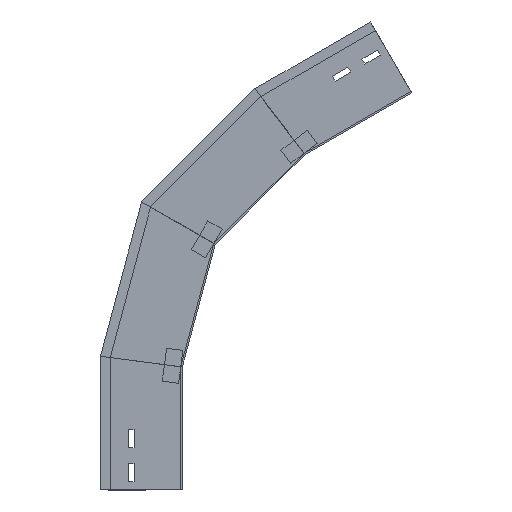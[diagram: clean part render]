
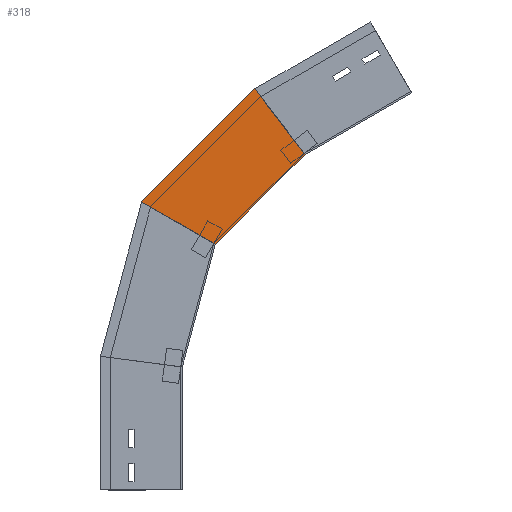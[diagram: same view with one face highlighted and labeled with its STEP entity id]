
A CAD part, left-side view. The second image highlights one B-rep face of the part: STEP entity #318.
In plain terms, the highlighted planar face has unit normal (-1, 0, 0) as drawn and (1, 0, 0) by its records, which use the part's own axes.
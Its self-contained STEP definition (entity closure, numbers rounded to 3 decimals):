
#18 = CARTESIAN_POINT ( 'NONE',  ( 0., 100.367, 161.797 ) ) ;
#114 = VERTEX_POINT ( 'NONE', #1142 ) ;
#116 = CARTESIAN_POINT ( 'NONE',  ( 0., 3.774, 135.915 ) ) ;
#133 = VERTEX_POINT ( 'NONE', #1580 ) ;
#212 = DIRECTION ( 'NONE',  ( 1., 0., 0. ) ) ;
#230 = CARTESIAN_POINT ( 'NONE',  ( 0., -40.117, 299.719 ) ) ;
#236 = EDGE_LOOP ( 'NONE', ( #1301, #1043, #260, #1416 ) ) ;
#254 = CARTESIAN_POINT ( 'NONE',  ( 0., -19.411, 147.444 ) ) ;
#260 = ORIENTED_EDGE ( 'NONE', *, *, #1498, .F. ) ;
#318 = ADVANCED_FACE ( 'NONE', ( #435 ), #577, .T. ) ;
#352 = DIRECTION ( 'NONE',  ( 0., 0., -1. ) ) ;
#366 = DIRECTION ( 'NONE',  ( 0., -0.866, -0.5 ) ) ;
#435 = FACE_OUTER_BOUND ( 'NONE', #236, .T. ) ;
#474 = VECTOR ( 'NONE', #1553, 1000. ) ;
#518 = CARTESIAN_POINT ( 'NONE',  ( 0., 3.774, 135.915 ) ) ;
#577 = PLANE ( 'NONE',  #1468 ) ;
#588 = EDGE_CURVE ( 'NONE', #1303, #1343, #1112, .T. ) ;
#590 = EDGE_CURVE ( 'NONE', #133, #114, #1128, .T. ) ;
#728 = VECTOR ( 'NONE', #1549, 1000. ) ;
#739 = EDGE_CURVE ( 'NONE', #133, #1303, #1036, .T. ) ;
#810 = VECTOR ( 'NONE', #1386, 1000. ) ;
#896 = CARTESIAN_POINT ( 'NONE',  ( 0., -78.128, 277.773 ) ) ;
#1036 = LINE ( 'NONE', #18, #474 ) ;
#1043 = ORIENTED_EDGE ( 'NONE', *, *, #588, .T. ) ;
#1112 = LINE ( 'NONE', #896, #1235 ) ;
#1128 = LINE ( 'NONE', #254, #810 ) ;
#1142 = CARTESIAN_POINT ( 'NONE',  ( 0., 0., 150. ) ) ;
#1235 = VECTOR ( 'NONE', #366, 1000. ) ;
#1301 = ORIENTED_EDGE ( 'NONE', *, *, #739, .T. ) ;
#1303 = VERTEX_POINT ( 'NONE', #1524 ) ;
#1343 = VERTEX_POINT ( 'NONE', #230 ) ;
#1386 = DIRECTION ( 'NONE',  ( 0., -0.991, -0.131 ) ) ;
#1416 = ORIENTED_EDGE ( 'NONE', *, *, #590, .F. ) ;
#1468 = AXIS2_PLACEMENT_3D ( 'NONE', #518, #212, #352 ) ;
#1498 = EDGE_CURVE ( 'NONE', #114, #1343, #1514, .T. ) ;
#1514 = LINE ( 'NONE', #116, #728 ) ;
#1524 = CARTESIAN_POINT ( 'NONE',  ( 0., 49.541, 351.482 ) ) ;
#1549 = DIRECTION ( 'NONE',  ( 0., -0.259, 0.966 ) ) ;
#1553 = DIRECTION ( 'NONE',  ( 0., -0.259, 0.966 ) ) ;
#1580 = CARTESIAN_POINT ( 'NONE',  ( 0., 100., 163.165 ) ) ;
